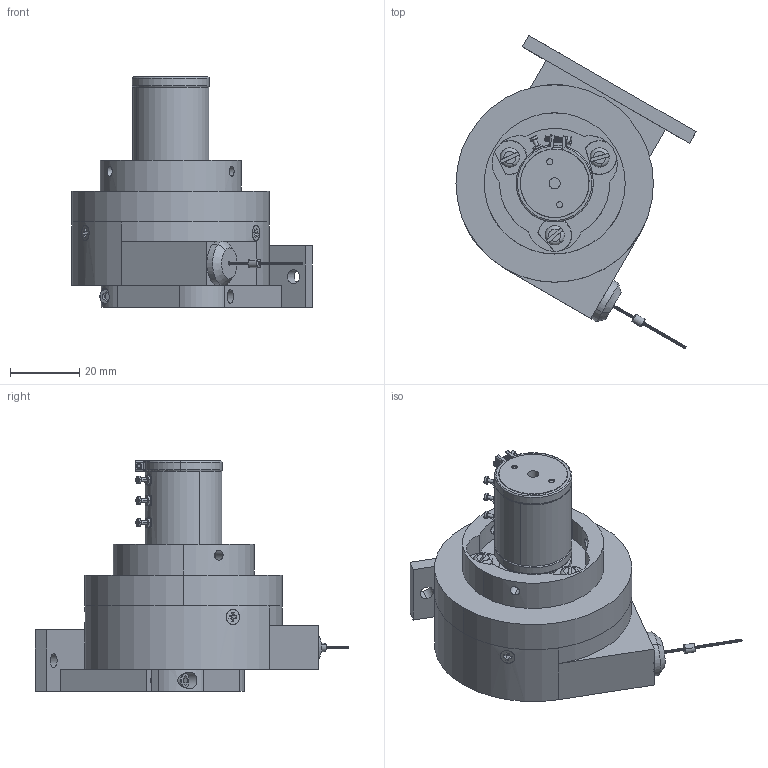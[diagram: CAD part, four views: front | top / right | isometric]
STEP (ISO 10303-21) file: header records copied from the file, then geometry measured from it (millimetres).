
FILE_DESCRIPTION (( 'STEP AP214' ), '1' );
FILE_NAME ('161H SERIES-GUIDE-NO SENSOR COVER.STEP', '2016-12-12T15:20:11', ( 'setup' ), ( '' ), 'SwSTEP 2.0', 'SolidWorks 2015', '' );
FILE_SCHEMA (( 'AUTOMOTIVE_DESIGN' ));
Length unit declared in the file: inch
Products named in the file (2): 161H SERIES-GUIDE-NO SENSOR COVER
Bounding box: 69.17 x 90.29 x 66.6 mm (x, y, z)
Surface area: 24928 mm2 (no closed solid volume)
Topology: 0 solids, 60 shells, 586 faces, 2366 edges, 1838 vertices
Faces by surface type: plane 230, cylinder 207, bspline 68, torus 49, cone 28, sphere 4
Entity records: 57907 total; most frequent: CARTESIAN_POINT 32418, ORIENTED_EDGE 3487, DIRECTION 3182, EDGE_CURVE 2360, VERTEX_POINT 1838, LINE 1148, VECTOR 1148, AXIS2_PLACEMENT_3D 1017
